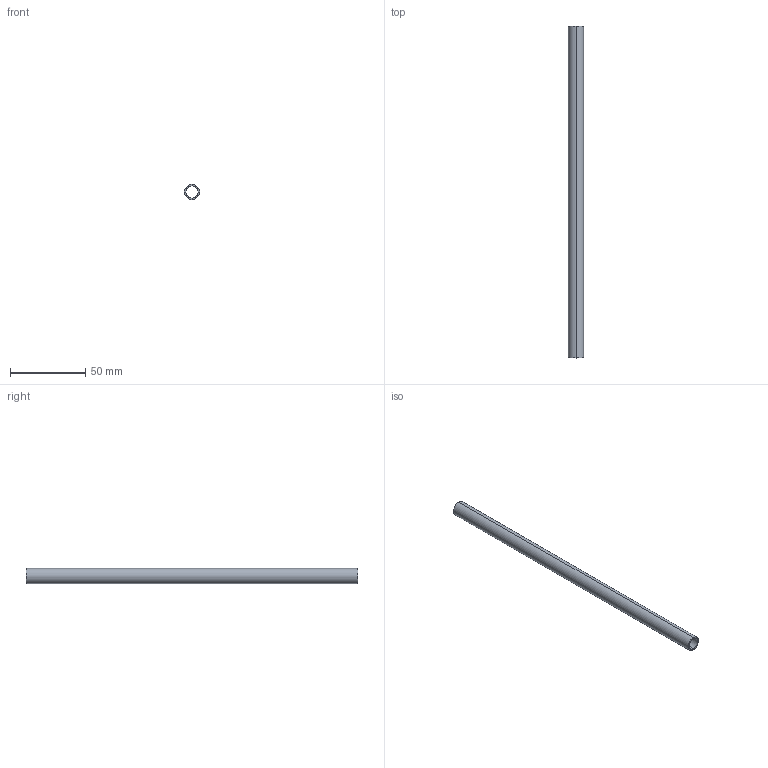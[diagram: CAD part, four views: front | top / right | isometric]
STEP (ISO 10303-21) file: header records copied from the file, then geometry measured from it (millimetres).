
FILE_DESCRIPTION (( 'STEP AP203' ), '1' );
FILE_NAME ('LightPost.STEP', '2025-03-11T00:33:57', ( '' ), ( '' ), 'SwSTEP 2.0', 'SolidWorks 2024', '' );
FILE_SCHEMA (( 'CONFIG_CONTROL_DESIGN' ));
Length unit declared in the file: millimetre
Products named in the file (1): LightPost
Bounding box: 10 x 220 x 10 mm (x, y, z)
Volume: 6220.4 mm3; surface area: 12497.3 mm2
Topology: 1 solids, 1 shells, 6 faces, 12 edges, 8 vertices
Faces by surface type: cylinder 4, plane 2
Entity records: 243 total; most frequent: DIRECTION 34, CARTESIAN_POINT 27, ORIENTED_EDGE 24, AXIS2_PLACEMENT_3D 15, EDGE_CURVE 12, EDGE_LOOP 8, VERTEX_POINT 8, PERSON_AND_ORGANIZATION 8
